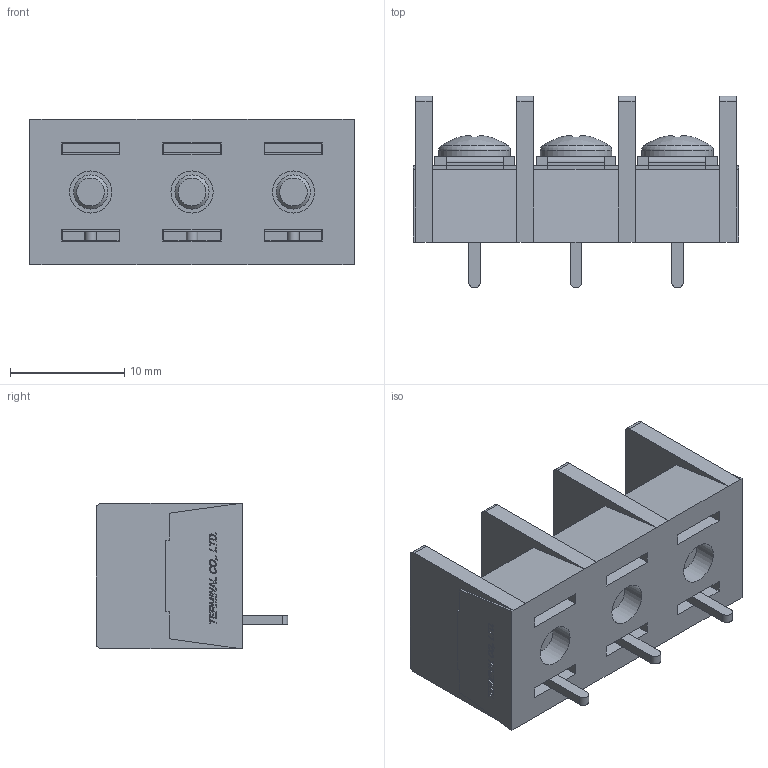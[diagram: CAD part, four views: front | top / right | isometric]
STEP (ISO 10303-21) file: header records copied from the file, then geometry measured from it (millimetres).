
FILE_DESCRIPTION(/* description */ ('Alibre Inc.'),/* implementation_level */ '2;1');
FILE_NAME(/* name */ 'export0',/* time_stamp */ '2015-10-20T08:11:07+09:00',/* author */ (''),/* organization */ (''),/* preprocessor_version */ 'ST-DEVELOPER v14',/* originating_system */ 'Alibre',/* authorisation */ '');
FILE_SCHEMA (('CONFIG_CONTROL_DESIGN'));
Length unit declared in the file: centimetre
Products named in the file (1): ID_1
Bounding box: 28.58 x 16.8 x 12.8 mm (x, y, z)
Volume: 2720.1 mm3; surface area: 3448.3 mm2
Topology: 1 solids, 52 shells, 1233 faces, 3191 edges, 2114 vertices
Faces by surface type: plane 917, bspline 260, cylinder 32, cone 15, torus 6, sphere 3
Full cylindrical faces by diameter (mm): 3 x6, 3.7 x3, 4.6 x3, 6.3 x3
Entity records: 35898 total; most frequent: CARTESIAN_POINT 8810, ORIENTED_EDGE 6316, DIRECTION 3658, EDGE_CURVE 3158, VECTOR 2449, LINE 2449, VERTEX_POINT 2105, EDGE_LOOP 1351
